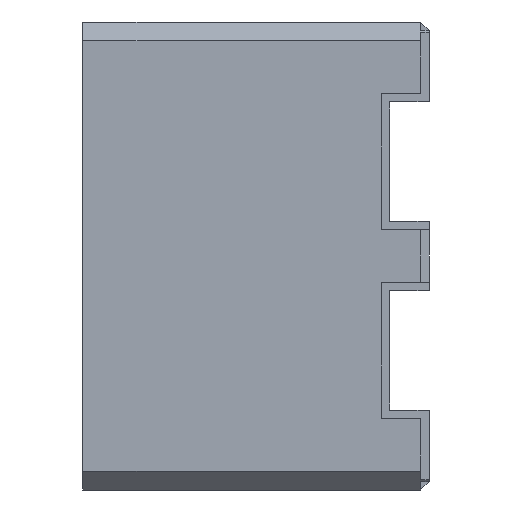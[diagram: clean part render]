
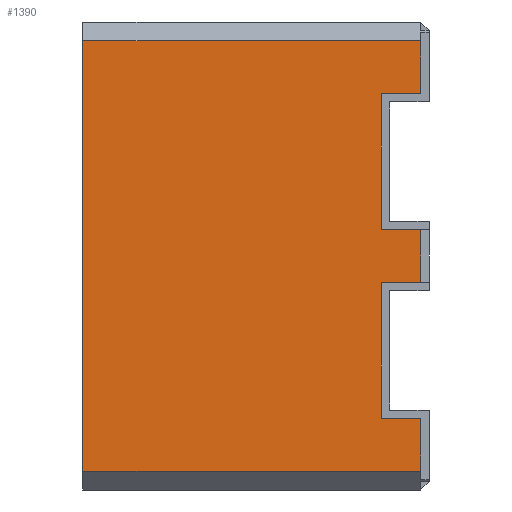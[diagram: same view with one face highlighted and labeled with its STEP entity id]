
A CAD part, left-side view. The second image highlights one B-rep face of the part: STEP entity #1390.
In plain terms, the highlighted planar face has unit normal (-1, 0, 0).
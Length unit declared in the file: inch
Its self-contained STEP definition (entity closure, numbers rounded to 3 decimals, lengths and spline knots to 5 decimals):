
#10 = VECTOR ( 'NONE', #410, 39.37008 ) ;
#19 = EDGE_CURVE ( 'NONE', #397, #796, #543, .T. ) ;
#60 = ORIENTED_EDGE ( 'NONE', *, *, #319, .F. ) ;
#80 = EDGE_CURVE ( 'NONE', #2066, #364, #2915, .T. ) ;
#136 = CARTESIAN_POINT ( 'NONE',  ( 0., 4.6, 38.1088 ) ) ;
#149 = CARTESIAN_POINT ( 'NONE',  ( 0., 0.8, 38.1088 ) ) ;
#170 = ORIENTED_EDGE ( 'NONE', *, *, #606, .F. ) ;
#203 = LINE ( 'NONE', #1662, #852 ) ;
#253 = PLANE ( 'NONE',  #3543 ) ;
#319 = EDGE_CURVE ( 'NONE', #2933, #2630, #687, .T. ) ;
#364 = VERTEX_POINT ( 'NONE', #859 ) ;
#372 = CARTESIAN_POINT ( 'NONE',  ( 0., 0., 1.8 ) ) ;
#397 = VERTEX_POINT ( 'NONE', #868 ) ;
#410 = DIRECTION ( 'NONE',  ( 0., 0., 1. ) ) ;
#448 = VECTOR ( 'NONE', #1036, 39.37008 ) ;
#451 = VERTEX_POINT ( 'NONE', #3261 ) ;
#459 = VECTOR ( 'NONE', #1898, 39.37008 ) ;
#471 = LINE ( 'NONE', #3159, #2576 ) ;
#507 = VECTOR ( 'NONE', #2918, 39.37008 ) ;
#515 = EDGE_CURVE ( 'NONE', #983, #2066, #1719, .T. ) ;
#543 = LINE ( 'NONE', #2338, #448 ) ;
#545 = EDGE_CURVE ( 'NONE', #397, #991, #646, .T. ) ;
#606 = EDGE_CURVE ( 'NONE', #3400, #2933, #471, .T. ) ;
#619 = VECTOR ( 'NONE', #1549, 39.37008 ) ;
#646 = LINE ( 'NONE', #3433, #2758 ) ;
#655 = DIRECTION ( 'NONE',  ( 0., 1., 0. ) ) ;
#687 = LINE ( 'NONE', #372, #2798 ) ;
#796 = VERTEX_POINT ( 'NONE', #1256 ) ;
#802 = DIRECTION ( 'NONE',  ( 0., 0., -1. ) ) ;
#852 = VECTOR ( 'NONE', #1114, 39.37008 ) ;
#855 = VECTOR ( 'NONE', #2859, 39.37008 ) ;
#859 = CARTESIAN_POINT ( 'NONE',  ( 0., 33.3, 43.2 ) ) ;
#868 = CARTESIAN_POINT ( 'NONE',  ( 0., 0.8, 25.0456 ) ) ;
#901 = CARTESIAN_POINT ( 'NONE',  ( 0., 33.3, 1.8 ) ) ;
#958 = VERTEX_POINT ( 'NONE', #136 ) ;
#983 = VERTEX_POINT ( 'NONE', #149 ) ;
#991 = VERTEX_POINT ( 'NONE', #2879 ) ;
#1036 = DIRECTION ( 'NONE',  ( 0., 0., -1. ) ) ;
#1077 = CARTESIAN_POINT ( 'NONE',  ( 0., 0.8, 43.2 ) ) ;
#1083 = EDGE_CURVE ( 'NONE', #958, #983, #1357, .T. ) ;
#1114 = DIRECTION ( 'NONE',  ( 0., -1., 0. ) ) ;
#1181 = ORIENTED_EDGE ( 'NONE', *, *, #19, .F. ) ;
#1256 = CARTESIAN_POINT ( 'NONE',  ( 0., 0.8, 19.9544 ) ) ;
#1322 = CARTESIAN_POINT ( 'NONE',  ( 0., 0.8, 1.8 ) ) ;
#1357 = LINE ( 'NONE', #2371, #619 ) ;
#1390 = ADVANCED_FACE ( 'NONE', ( #3055 ), #253, .F. ) ;
#1437 = LINE ( 'NONE', #2192, #2811 ) ;
#1469 = EDGE_CURVE ( 'NONE', #991, #958, #1437, .T. ) ;
#1499 = CARTESIAN_POINT ( 'NONE',  ( 0., 33.3, 22.5 ) ) ;
#1513 = DIRECTION ( 'NONE',  ( 0., 1., 0. ) ) ;
#1549 = DIRECTION ( 'NONE',  ( 0., -1., 0. ) ) ;
#1550 = VECTOR ( 'NONE', #655, 39.37008 ) ;
#1558 = CARTESIAN_POINT ( 'NONE',  ( 0., 4.6, 6.8912 ) ) ;
#1612 = ORIENTED_EDGE ( 'NONE', *, *, #1660, .F. ) ;
#1631 = ORIENTED_EDGE ( 'NONE', *, *, #2854, .F. ) ;
#1660 = EDGE_CURVE ( 'NONE', #796, #1753, #3377, .T. ) ;
#1662 = CARTESIAN_POINT ( 'NONE',  ( 0., 0.8, 6.8912 ) ) ;
#1687 = EDGE_LOOP ( 'NONE', ( #60, #170, #2354, #1631, #1612, #1181, #1698, #3425, #1935, #2145, #1994, #2610 ) ) ;
#1698 = ORIENTED_EDGE ( 'NONE', *, *, #545, .T. ) ;
#1719 = LINE ( 'NONE', #2862, #10 ) ;
#1753 = VERTEX_POINT ( 'NONE', #2917 ) ;
#1898 = DIRECTION ( 'NONE',  ( 0., 1., 0. ) ) ;
#1935 = ORIENTED_EDGE ( 'NONE', *, *, #1083, .T. ) ;
#1994 = ORIENTED_EDGE ( 'NONE', *, *, #80, .T. ) ;
#2066 = VERTEX_POINT ( 'NONE', #1077 ) ;
#2145 = ORIENTED_EDGE ( 'NONE', *, *, #515, .T. ) ;
#2148 = EDGE_CURVE ( 'NONE', #451, #3400, #203, .T. ) ;
#2161 = CARTESIAN_POINT ( 'NONE',  ( 0., 0., 22.5 ) ) ;
#2171 = CARTESIAN_POINT ( 'NONE',  ( 0., 0.8, 19.9544 ) ) ;
#2192 = CARTESIAN_POINT ( 'NONE',  ( 0., 4.6, 38.1088 ) ) ;
#2297 = LINE ( 'NONE', #1499, #855 ) ;
#2338 = CARTESIAN_POINT ( 'NONE',  ( 0., 0.8, 22.5 ) ) ;
#2354 = ORIENTED_EDGE ( 'NONE', *, *, #2148, .F. ) ;
#2371 = CARTESIAN_POINT ( 'NONE',  ( 0., 0.8, 38.1088 ) ) ;
#2441 = DIRECTION ( 'NONE',  ( 1., 0., 0. ) ) ;
#2576 = VECTOR ( 'NONE', #2620, 39.37008 ) ;
#2581 = CARTESIAN_POINT ( 'NONE',  ( 0., 0., 43.2 ) ) ;
#2610 = ORIENTED_EDGE ( 'NONE', *, *, #2725, .T. ) ;
#2620 = DIRECTION ( 'NONE',  ( 0., 0., -1. ) ) ;
#2630 = VERTEX_POINT ( 'NONE', #901 ) ;
#2725 = EDGE_CURVE ( 'NONE', #364, #2630, #2297, .T. ) ;
#2758 = VECTOR ( 'NONE', #1513, 39.37008 ) ;
#2798 = VECTOR ( 'NONE', #3103, 39.37008 ) ;
#2811 = VECTOR ( 'NONE', #3289, 39.37008 ) ;
#2854 = EDGE_CURVE ( 'NONE', #1753, #451, #3242, .T. ) ;
#2859 = DIRECTION ( 'NONE',  ( 0., 0., -1. ) ) ;
#2862 = CARTESIAN_POINT ( 'NONE',  ( 0., 0.8, 22.5 ) ) ;
#2879 = CARTESIAN_POINT ( 'NONE',  ( 0., 4.6, 25.0456 ) ) ;
#2915 = LINE ( 'NONE', #2581, #1550 ) ;
#2917 = CARTESIAN_POINT ( 'NONE',  ( 0., 4.6, 19.9544 ) ) ;
#2918 = DIRECTION ( 'NONE',  ( 0., 0., -1. ) ) ;
#2933 = VERTEX_POINT ( 'NONE', #1322 ) ;
#2943 = CARTESIAN_POINT ( 'NONE',  ( 0., 0.8, 6.8912 ) ) ;
#3055 = FACE_OUTER_BOUND ( 'NONE', #1687, .T. ) ;
#3103 = DIRECTION ( 'NONE',  ( 0., 1., 0. ) ) ;
#3159 = CARTESIAN_POINT ( 'NONE',  ( 0., 0.8, 22.5 ) ) ;
#3242 = LINE ( 'NONE', #1558, #507 ) ;
#3261 = CARTESIAN_POINT ( 'NONE',  ( 0., 4.6, 6.8912 ) ) ;
#3289 = DIRECTION ( 'NONE',  ( 0., 0., 1. ) ) ;
#3377 = LINE ( 'NONE', #2171, #459 ) ;
#3400 = VERTEX_POINT ( 'NONE', #2943 ) ;
#3425 = ORIENTED_EDGE ( 'NONE', *, *, #1469, .T. ) ;
#3433 = CARTESIAN_POINT ( 'NONE',  ( 0., 0.8, 25.0456 ) ) ;
#3543 = AXIS2_PLACEMENT_3D ( 'NONE', #2161, #2441, #802 ) ;
